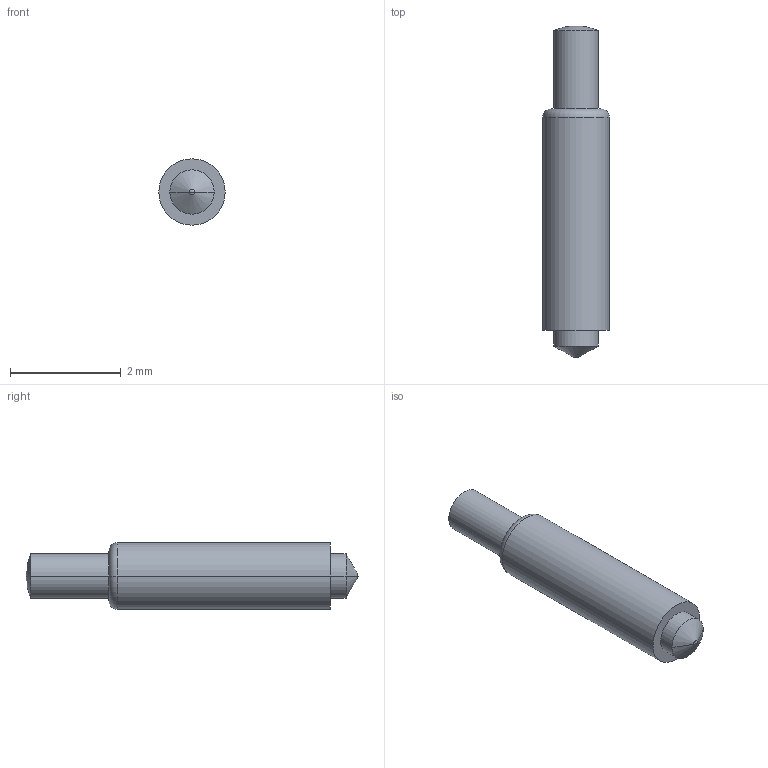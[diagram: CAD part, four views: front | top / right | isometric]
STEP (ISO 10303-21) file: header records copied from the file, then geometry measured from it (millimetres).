
FILE_DESCRIPTION((''),'2;1');
FILE_NAME('JD-SX120-111','2020-11-04T',('lenovo'),(''),'PRO/ENGINEER BY PARAMETRIC TECHNOLOGY CORPORATION, 2008380','PRO/ENGINEER BY PARAMETRIC TECHNOLOGY CORPORATION, 2008380','');
FILE_SCHEMA(('CONFIG_CONTROL_DESIGN'));
Length unit declared in the file: millimetre
Products named in the file (1): JD-SX120-111
Bounding box: 1.2 x 6 x 1.2 mm (x, y, z)
Volume: 5.4 mm3; surface area: 21.5 mm2
Topology: 1 solids, 1 shells, 16 faces, 34 edges, 18 vertices
Faces by surface type: cylinder 6, sphere 4, plane 2, torus 2, cone 2
Entity records: 446 total; most frequent: DIRECTION 84, CARTESIAN_POINT 64, ORIENTED_EDGE 60, AXIS2_PLACEMENT_3D 38, EDGE_CURVE 30, CIRCLE 22, VERTEX_POINT 18, EDGE_LOOP 18
